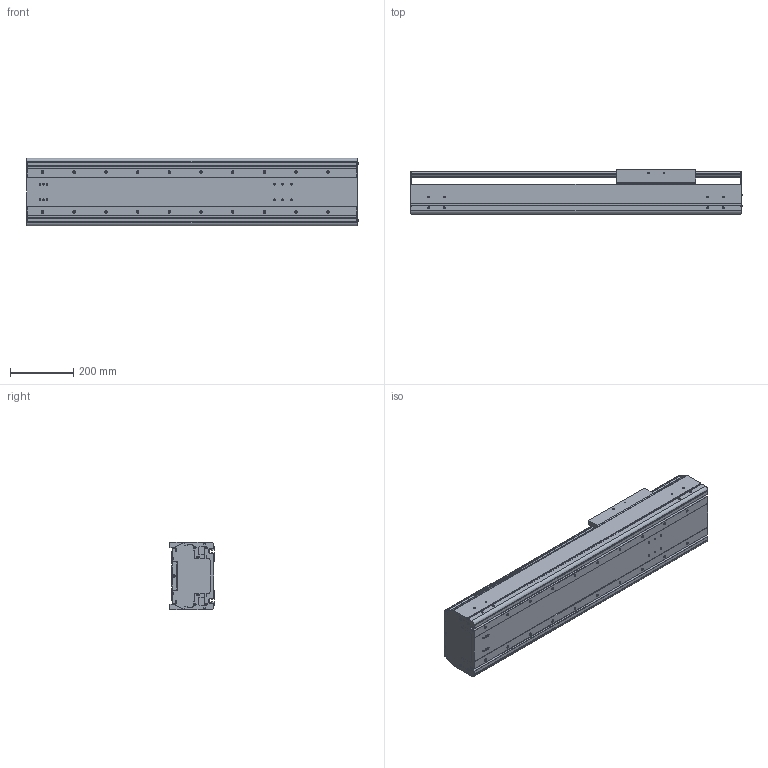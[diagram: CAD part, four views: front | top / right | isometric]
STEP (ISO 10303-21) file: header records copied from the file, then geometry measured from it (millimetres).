
FILE_DESCRIPTION((''),'2;1');
FILE_NAME('BE60G-ST-M_B-60_IGS_PRT','2017-06-18T',(' '),(''),'PRO/ENGINEER BY PARAMETRIC TECHNOLOGY CORPORATION, 2015030','PRO/ENGINEER BY PARAMETRIC TECHNOLOGY CORPORATION, 2015030','');
FILE_SCHEMA(('CONFIG_CONTROL_DESIGN'));
Length unit declared in the file: millimetre
Products named in the file (1): BE60G-ST-M_B-60_IGS_PRT
Bounding box: 1047.4 x 140 x 214 mm (x, y, z)
Volume: 8675819.6 mm3; surface area: 2308123 mm2
Topology: 2 solids, 120 shells, 1442 faces, 3996 edges, 2619 vertices
Faces by surface type: cylinder 712, plane 590, cone 92, sphere 24, torus 24
Entity records: 47645 total; most frequent: CARTESIAN_POINT 10349, DIRECTION 7912, ORIENTED_EDGE 7348, EDGE_CURVE 3906, AXIS2_PLACEMENT_3D 2927, VERTEX_POINT 2618, VECTOR 2058, LINE 2058
